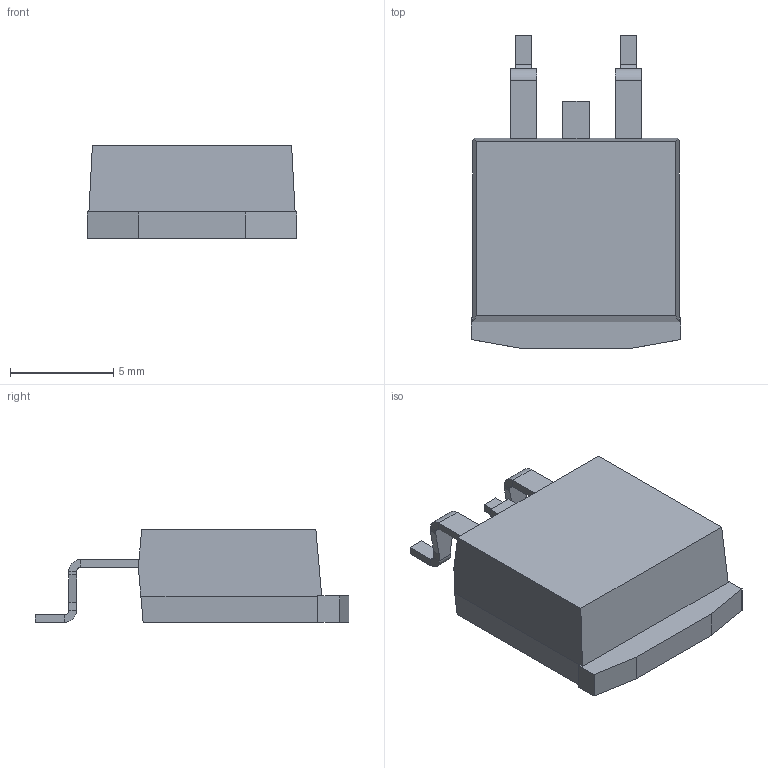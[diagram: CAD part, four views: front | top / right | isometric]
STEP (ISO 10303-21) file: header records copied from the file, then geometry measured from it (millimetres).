
FILE_DESCRIPTION(/* description */ (''),/* implementation_level */ '2;1');
FILE_NAME(/* name */ 'P240-D2pak.stp',/* time_stamp */ '2020-07-07T14:29:53+02:00',/* author */ (''),/* organization */ (''),/* preprocessor_version */ 'ST-DEVELOPER v14',/* originating_system */ 'SIEMENS PLM Software NX 8.0',/* authorisation */ '');
FILE_SCHEMA (('AUTOMOTIVE_DESIGN { 1 0 10303 214 3 1 1 1 }'));
Length unit declared in the file: millimetre
Products named in the file (2): fuss; 240001-04054_body
Assembly tree (1 placements, depth 2):
  240001-04054_body
    fuss
Bounding box: 10.15 x 15.2 x 4.5 mm (x, y, z)
Volume: 497.6 mm3; surface area: 782.4 mm2
Topology: 6 solids, 6 shells, 121 faces, 307 edges, 198 vertices
Faces by surface type: plane 101, cylinder 20
Entity records: 3787 total; most frequent: CARTESIAN_POINT 636, ORIENTED_EDGE 614, DIRECTION 593, EDGE_CURVE 307, LINE 267, VECTOR 267, VERTEX_POINT 198, AXIS2_PLACEMENT_3D 163
